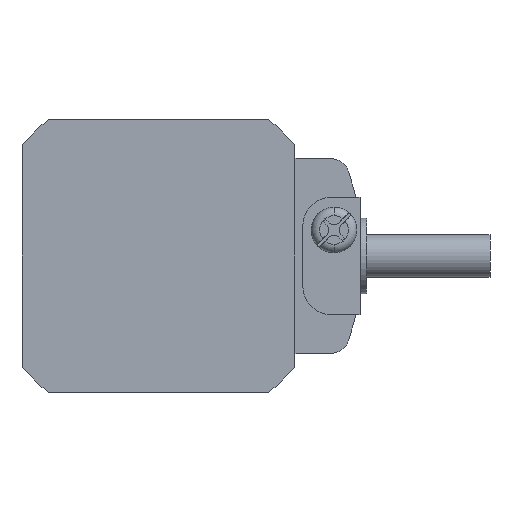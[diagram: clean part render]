
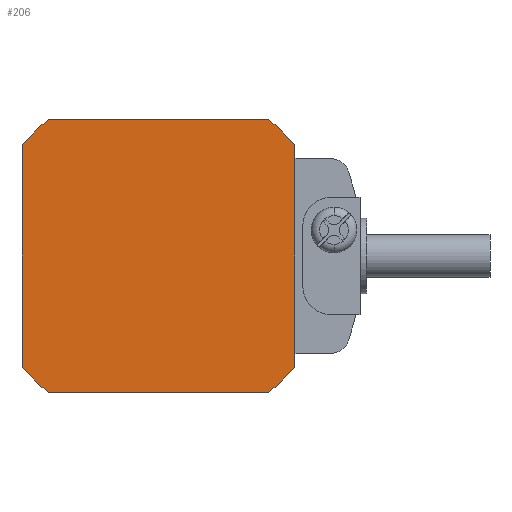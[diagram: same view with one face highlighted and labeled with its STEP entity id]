
A CAD part, left-side view. The second image highlights one B-rep face of the part: STEP entity #206.
In plain terms, the highlighted planar face has unit normal (-1, 0, 0).
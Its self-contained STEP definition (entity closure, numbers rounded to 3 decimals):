
#206 = ADVANCED_FACE( '', ( #481 ), #482, .F. );
#481 = FACE_OUTER_BOUND( '', #762, .T. );
#482 = PLANE( '', #763 );
#762 = EDGE_LOOP( '', ( #1814, #1815, #1816, #1817, #1818, #1819, #1820, #1821 ) );
#763 = AXIS2_PLACEMENT_3D( '', #1822, #1823, #1824 );
#1814 = ORIENTED_EDGE( '', *, *, #2117, .F. );
#1815 = ORIENTED_EDGE( '', *, *, #2114, .F. );
#1816 = ORIENTED_EDGE( '', *, *, #2121, .F. );
#1817 = ORIENTED_EDGE( '', *, *, #2127, .F. );
#1818 = ORIENTED_EDGE( '', *, *, #2167, .F. );
#1819 = ORIENTED_EDGE( '', *, *, #2171, .F. );
#1820 = ORIENTED_EDGE( '', *, *, #2176, .F. );
#1821 = ORIENTED_EDGE( '', *, *, #2048, .F. );
#1822 = CARTESIAN_POINT( '', ( -34., 0., 0. ) );
#1823 = DIRECTION( '', ( 1., 0., 0. ) );
#1824 = DIRECTION( '', ( 0., 0., -1. ) );
#2048 = EDGE_CURVE( '', #2524, #2526, #2527, .T. );
#2114 = EDGE_CURVE( '', #2629, #2631, #2632, .T. );
#2117 = EDGE_CURVE( '', #2631, #2524, #2635, .T. );
#2121 = EDGE_CURVE( '', #2639, #2629, #2641, .T. );
#2127 = EDGE_CURVE( '', #2648, #2639, #2650, .T. );
#2167 = EDGE_CURVE( '', #2716, #2648, #2718, .T. );
#2171 = EDGE_CURVE( '', #2722, #2716, #2724, .T. );
#2176 = EDGE_CURVE( '', #2526, #2722, #2731, .T. );
#2524 = VERTEX_POINT( '', #3278 );
#2526 = VERTEX_POINT( '', #3281 );
#2527 = LINE( '', #3282, #3283 );
#2629 = VERTEX_POINT( '', #3420 );
#2631 = VERTEX_POINT( '', #3423 );
#2632 = LINE( '', #3424, #3425 );
#2635 = CIRCLE( '', #3429, 27. );
#2639 = VERTEX_POINT( '', #3434 );
#2641 = CIRCLE( '', #3437, 27. );
#2648 = VERTEX_POINT( '', #3447 );
#2650 = LINE( '', #3450, #3451 );
#2716 = VERTEX_POINT( '', #3541 );
#2718 = CIRCLE( '', #3544, 27. );
#2722 = VERTEX_POINT( '', #3550 );
#2724 = LINE( '', #3553, #3554 );
#2731 = CIRCLE( '', #3564, 27. );
#3278 = CARTESIAN_POINT( '', ( -34., -21., 16.971 ) );
#3281 = CARTESIAN_POINT( '', ( -34., -21., -16.971 ) );
#3282 = CARTESIAN_POINT( '', ( -34., -21., 16.971 ) );
#3283 = VECTOR( '', #3916, 1. );
#3420 = CARTESIAN_POINT( '', ( -34., 16.971, 21. ) );
#3423 = CARTESIAN_POINT( '', ( -34., -16.971, 21. ) );
#3424 = CARTESIAN_POINT( '', ( -34., 16.971, 21. ) );
#3425 = VECTOR( '', #4040, 1. );
#3429 = AXIS2_PLACEMENT_3D( '', #4045, #4046, #4047 );
#3434 = CARTESIAN_POINT( '', ( -34., 21., 16.971 ) );
#3437 = AXIS2_PLACEMENT_3D( '', #4053, #4054, #4055 );
#3447 = CARTESIAN_POINT( '', ( -34., 21., -16.971 ) );
#3450 = CARTESIAN_POINT( '', ( -34., 21., -16.971 ) );
#3451 = VECTOR( '', #4063, 1. );
#3541 = CARTESIAN_POINT( '', ( -34., 16.971, -21. ) );
#3544 = AXIS2_PLACEMENT_3D( '', #4131, #4132, #4133 );
#3550 = CARTESIAN_POINT( '', ( -34., -16.971, -21. ) );
#3553 = CARTESIAN_POINT( '', ( -34., -16.971, -21. ) );
#3554 = VECTOR( '', #4137, 1. );
#3564 = AXIS2_PLACEMENT_3D( '', #4144, #4145, #4146 );
#3916 = DIRECTION( '', ( 0., 0., -1. ) );
#4040 = DIRECTION( '', ( 0., -1., 0. ) );
#4045 = CARTESIAN_POINT( '', ( -34., 0., 0. ) );
#4046 = DIRECTION( '', ( 1., 0., 0. ) );
#4047 = DIRECTION( '', ( 0., -0.629, 0.778 ) );
#4053 = CARTESIAN_POINT( '', ( -34., 0., 0. ) );
#4054 = DIRECTION( '', ( 1., 0., 0. ) );
#4055 = DIRECTION( '', ( 0., 0.778, 0.629 ) );
#4063 = DIRECTION( '', ( 0., 0., 1. ) );
#4131 = CARTESIAN_POINT( '', ( -34., 0., 0. ) );
#4132 = DIRECTION( '', ( 1., 0., 0. ) );
#4133 = DIRECTION( '', ( 0., 0.629, -0.778 ) );
#4137 = DIRECTION( '', ( 0., 1., 0. ) );
#4144 = CARTESIAN_POINT( '', ( -34., 0., 0. ) );
#4145 = DIRECTION( '', ( 1., 0., 0. ) );
#4146 = DIRECTION( '', ( 0., -0.778, -0.629 ) );
